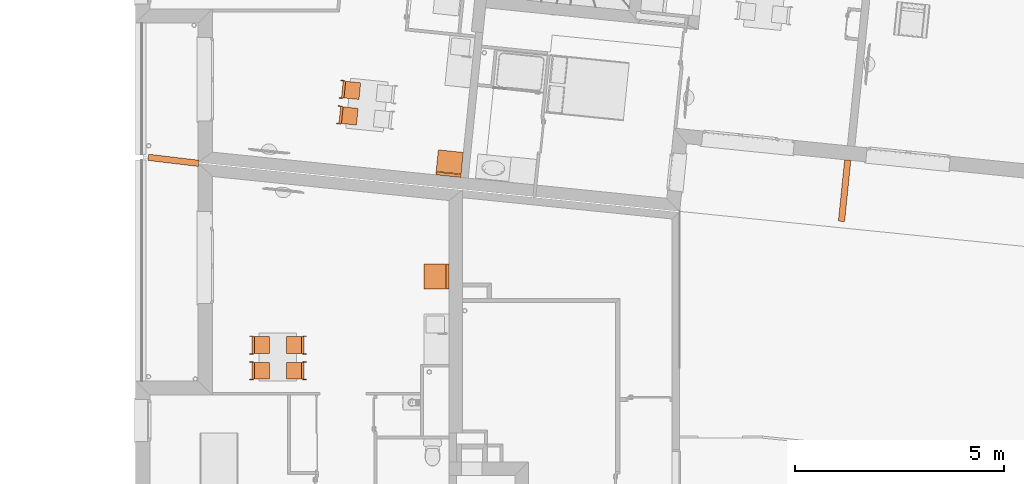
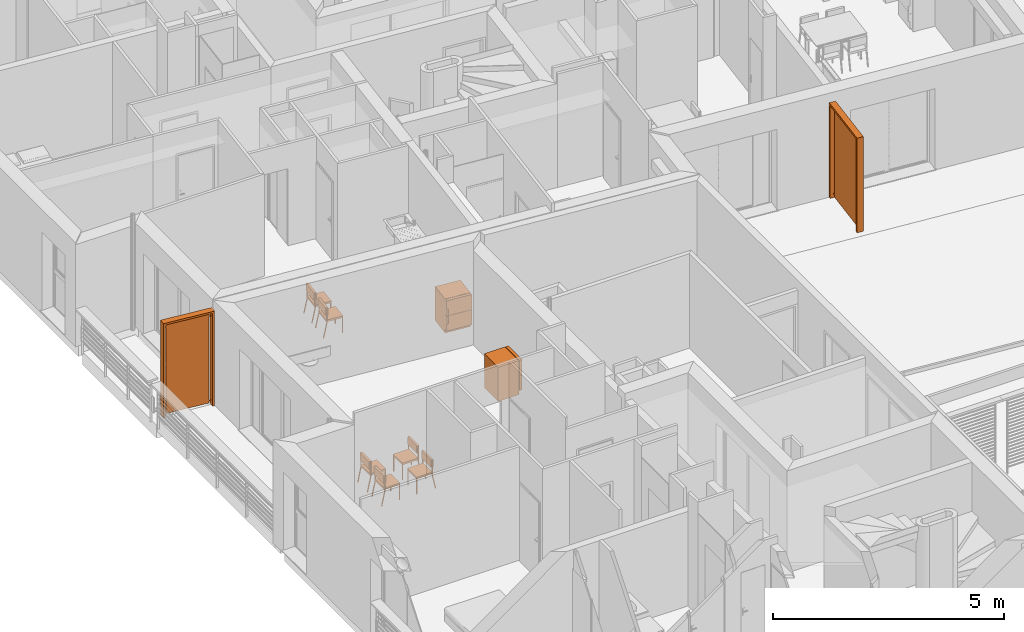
# One storey, part 158 of 171: 10 proxies.
"""IFC2X3 building model written with IfcOpenShell, lengths in millimetres."""

from ifc_helpers import new_model, entity, si_unit, converted_unit, derived_unit, money_unit, direction, frame, origin_with_axes, place, context, subcontext, project, spatial, open_shell, faceted_brep, surface_model, source, transform, mapped, type_object, element, save


model = new_model("IFC2X3")

# Units and contexts
model_context = context("Model", 3, precision=0.01, world=origin_with_axes(), true_north=direction((0.0, 1.0)))
body_context = subcontext(model_context, "Body", "Model", "MODEL_VIEW")
ifc_project = project(units=[si_unit("LENGTHUNIT", "METRE", prefix="MILLI"), si_unit("AREAUNIT", "SQUARE_METRE"), si_unit("VOLUMEUNIT", "CUBIC_METRE"), converted_unit("PLANEANGLEUNIT", "DEGREE", entity("IfcPlaneAngleMeasure", 0.0174532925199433), si_unit("PLANEANGLEUNIT", "RADIAN"), dimensions=[0, 0, 0, 0, 0, 0, 0]), money_unit("USD"), converted_unit("TIMEUNIT", "Year", entity("IfcTimeMeasure", 31557600.0), si_unit("TIMEUNIT", "SECOND"), dimensions=[0, 0, 1, 0, 0, 0, 0]), si_unit("MASSUNIT", "GRAM", prefix="KILO"), si_unit("THERMODYNAMICTEMPERATUREUNIT", "DEGREE_CELSIUS"), si_unit("LUMINOUSINTENSITYUNIT", "LUMEN"), si_unit("ENERGYUNIT", "JOULE", prefix="MEGA"), derived_unit("THERMALCONDUCTANCEUNIT", [(si_unit("POWERUNIT", "WATT"), 1), (si_unit("LENGTHUNIT", "METRE"), -1), (si_unit("THERMODYNAMICTEMPERATUREUNIT", "KELVIN"), -1)]), derived_unit("SPECIFICHEATCAPACITYUNIT", [(si_unit("ENERGYUNIT", "JOULE"), 1), (si_unit("MASSUNIT", "GRAM", prefix="KILO"), -1), (si_unit("THERMODYNAMICTEMPERATUREUNIT", "KELVIN"), -1)]), derived_unit("MASSDENSITYUNIT", [(si_unit("MASSUNIT", "GRAM", prefix="KILO"), 1), (si_unit("VOLUMEUNIT", "CUBIC_METRE"), -1)])], contexts=[model_context])

# Site, building, storey
site_placement = place(None, origin_with_axes())
site = spatial("IfcSite", under=ifc_project, at=site_placement, Name="Site", CompositionType="ELEMENT")
building_placement = place(site_placement, origin_with_axes())
building = spatial("IfcBuilding", under=site, at=building_placement, Name="Bâtiment", CompositionType="ELEMENT")
storey_placement = place(building_placement, frame((0.0, 0.0, 3000.0), z_axis=(0.0, 0.0, 1.0), x_axis=(1.0, 0.0, 0.0)))
storey = spatial("IfcBuildingStorey", under=building, at=storey_placement, Name="rdc", CompositionType="ELEMENT", Elevation=3000.0)

# Proxies
building_element_proxy_type = type_object("IfcBuildingElementProxyType", PredefinedType="NOTDEFINED")
shared_shape_1 = source(origin_with_axes(), body_context, "Body", "Brep", [
    faceted_brep([(39.99999978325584, 0.0, 0.0), (19.99999989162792, 0.0, 0.0), (19.99999989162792, 19.99999936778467, 0.0), (39.99999978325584, 19.99999936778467, 0.0), (39.99999978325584, 0.0, 400.0), (19.99999989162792, 0.0, 400.0), (19.99999989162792, 19.99999936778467, 400.0), (39.99999978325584, 19.99999936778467, 400.0)], [[[0, 1, 2, 3]], [[1, 0, 4, 5]], [[2, 1, 5, 6]], [[3, 2, 6, 7]], [[0, 3, 7, 4]], [[5, 4, 7, 6]]]),
    faceted_brep([(419.9999977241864, 0.0, 0.0), (399.9999978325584, 0.0, 0.0), (399.9999978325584, 19.99999936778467, 0.0), (419.9999977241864, 19.99999936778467, 0.0), (419.9999977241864, 0.0, 400.0), (399.9999978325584, 0.0, 400.0), (399.9999978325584, 19.99999936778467, 400.0), (419.9999977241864, 19.99999936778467, 400.0)], [[[0, 1, 2, 3]], [[1, 0, 4, 5]], [[2, 1, 5, 6]], [[3, 2, 6, 7]], [[0, 3, 7, 4]], [[5, 4, 7, 6]]]),
    faceted_brep([(399.9999978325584, 0.0, 400.0000000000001), (39.99999978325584, 0.0, 400.0000000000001), (39.99999978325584, 19.99999936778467, 400.0000000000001), (399.9999978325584, 19.99999936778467, 400.0000000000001), (399.9999978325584, 0.0, 420.0000000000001), (39.99999978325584, 0.0, 420.0000000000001), (39.99999978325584, 19.99999936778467, 420.0000000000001), (399.9999978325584, 19.99999936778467, 420.0000000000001)], [[[0, 1, 2, 3]], [[1, 0, 4, 5]], [[2, 1, 5, 6]], [[3, 2, 6, 7]], [[0, 3, 7, 4]], [[5, 4, 7, 6]]]),
    faceted_brep([(39.99999978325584, 19.99999936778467, 400.0000000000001), (19.99999989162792, 19.99999936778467, 400.0000000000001), (19.99999989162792, 379.9999879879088, 400.0000000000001), (39.99999978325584, 379.9999879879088, 400.0000000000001), (39.99999978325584, 19.99999936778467, 420.0000000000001), (19.99999989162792, 19.99999936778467, 420.0000000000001), (19.99999989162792, 379.9999879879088, 420.0000000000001), (39.99999978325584, 379.9999879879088, 420.0000000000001)], [[[0, 1, 2, 3]], [[1, 0, 4, 5]], [[2, 1, 5, 6]], [[3, 2, 6, 7]], [[0, 3, 7, 4]], [[5, 4, 7, 6]]]),
    faceted_brep([(419.9999977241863, 379.9999879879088, 400.0000000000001), (19.99999989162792, 379.9999879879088, 400.0000000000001), (19.99999989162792, 399.9999873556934, 400.0000000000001), (419.9999977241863, 399.9999873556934, 400.0000000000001), (419.9999977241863, 379.9999879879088, 420.0000000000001), (19.99999989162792, 379.9999879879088, 420.0000000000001), (19.99999989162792, 399.9999873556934, 420.0000000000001), (419.9999977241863, 399.9999873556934, 420.0000000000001)], [[[0, 1, 2, 3]], [[1, 0, 4, 5]], [[2, 1, 5, 6]], [[3, 2, 6, 7]], [[0, 3, 7, 4]], [[5, 4, 7, 6]]]),
    faceted_brep([(419.9999977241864, 19.99999936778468, 400.0000000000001), (399.9999978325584, 19.99999936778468, 400.0000000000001), (399.9999978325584, 379.9999879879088, 400.0000000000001), (419.9999977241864, 379.9999879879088, 400.0000000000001), (419.9999977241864, 19.99999936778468, 420.0000000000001), (399.9999978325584, 19.99999936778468, 420.0000000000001), (399.9999978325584, 379.9999879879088, 420.0000000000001), (419.9999977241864, 379.9999879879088, 420.0000000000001)], [[[0, 1, 2, 3]], [[1, 0, 4, 5]], [[2, 1, 5, 6]], [[3, 2, 6, 7]], [[0, 3, 7, 4]], [[5, 4, 7, 6]]]),
    faceted_brep([(419.9999977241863, 0.0, 400.0), (19.99999989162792, 0.0, 400.0), (19.99999989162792, 399.9999873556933, 400.0), (419.9999977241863, 399.9999873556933, 400.0), (419.9999977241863, 0.0, 450.0), (19.99999989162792, 0.0, 450.0), (19.99999989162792, 399.9999873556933, 450.0), (419.9999977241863, 399.9999873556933, 450.0)], [[[0, 1, 2, 3]], [[1, 0, 4, 5]], [[2, 1, 5, 6]], [[3, 2, 6, 7]], [[0, 3, 7, 4]], [[5, 4, 7, 6]]]),
    faceted_brep([(19.99999989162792, 379.9999879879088, 380.0), (0.0, 379.9999879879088, 380.0), (0.0, 399.9999873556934, 380.0), (19.99999989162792, 399.9999873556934, 380.0), (19.99999989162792, 379.9999879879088, 780.0), (0.0, 379.9999879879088, 780.0), (0.0, 399.9999873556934, 780.0), (19.99999989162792, 399.9999873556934, 780.0)], [[[0, 1, 2, 3]], [[1, 0, 4, 5]], [[2, 1, 5, 6]], [[3, 2, 6, 7]], [[0, 3, 7, 4]], [[5, 4, 7, 6]]]),
    faceted_brep([(439.9999976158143, 379.9999879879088, 380.0), (419.9999977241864, 379.9999879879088, 380.0), (419.9999977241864, 399.9999873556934, 380.0), (439.9999976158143, 399.9999873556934, 380.0), (439.9999976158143, 379.9999879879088, 780.0), (419.9999977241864, 379.9999879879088, 780.0), (419.9999977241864, 399.9999873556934, 780.0), (439.9999976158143, 399.9999873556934, 780.0)], [[[0, 1, 2, 3]], [[1, 0, 4, 5]], [[2, 1, 5, 6]], [[3, 2, 6, 7]], [[0, 3, 7, 4]], [[5, 4, 7, 6]]]),
    faceted_brep([(419.9999977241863, 359.999988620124, 580.0000000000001), (19.99999989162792, 359.999988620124, 580.0000000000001), (19.99999989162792, 419.9999867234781, 580.0000000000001), (419.9999977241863, 419.9999867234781, 580.0000000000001), (419.9999977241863, 359.999988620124, 780.0), (19.99999989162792, 359.999988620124, 780.0), (19.99999989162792, 419.9999867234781, 780.0), (419.9999977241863, 419.9999867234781, 780.0)], [[[0, 1, 2, 3]], [[1, 0, 4, 5]], [[2, 1, 5, 6]], [[3, 2, 6, 7]], [[0, 3, 7, 4]], [[5, 4, 7, 6]]]),
    faceted_brep([(19.99999989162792, 459.9999854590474, 0.0), (0.0, 459.9999854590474, 0.0), (0.0, 479.5709559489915, 4.120326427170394), (19.99999989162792, 479.5709559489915, 4.120326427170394), (19.99999989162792, 379.997669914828, 379.999760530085), (0.0, 379.997669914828, 379.999760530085), (0.0, 399.5686404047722, 384.1200869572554), (19.99999989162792, 399.5686404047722, 384.1200869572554)], [[[0, 1, 2, 3]], [[1, 0, 4, 5]], [[2, 1, 5, 6]], [[3, 2, 6, 7]], [[0, 3, 7, 4]], [[5, 4, 7, 6]]]),
    faceted_brep([(439.9999976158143, 459.9999854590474, 0.0), (419.9999977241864, 459.9999854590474, 0.0), (419.9999977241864, 479.5709559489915, 4.120326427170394), (439.9999976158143, 479.5709559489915, 4.120326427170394), (439.9999976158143, 379.997669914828, 379.999760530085), (419.9999977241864, 379.997669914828, 379.999760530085), (419.9999977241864, 399.5686404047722, 384.1200869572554), (439.9999976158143, 399.5686404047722, 384.1200869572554)], [[[0, 1, 2, 3]], [[1, 0, 4, 5]], [[2, 1, 5, 6]], [[3, 2, 6, 7]], [[0, 3, 7, 4]], [[5, 4, 7, 6]]]),
])
for number, where, z_axis, x_axis, name in (
    (1, (2219836.985597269, -625431.2613920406, 0.0), (0.0, 0.0, 1.0), (-0.0005412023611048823, 0.9999998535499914, 0.0), "Obj.-027"),
    (2, (2221916.91259288, -619966.2844039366, 0.0), (0.0, 0.0, 1.0), (0.1000048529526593, 0.9949869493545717, 0.0), "Obj.-027"),
    (3, (2221978.428118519, -619354.2426538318, 0.0), (0.0, 0.0, 1.0), (0.1000048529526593, 0.9949869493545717, 0.0), "Obj.-027"),
    (4, (2219837.318504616, -626046.3867068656, 0.0), (0.0, 0.0, 1.0), (-0.0005412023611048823, 0.9999998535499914, 0.0), "Obj.-027"),
):
    element("IfcBuildingElementProxy", number, at=place(storey_placement, frame(where, z_axis=z_axis, x_axis=x_axis)), inside=storey, type_object=building_element_proxy_type, Name=name, context=body_context, shape_type="MappedRepresentation", body=[
        mapped(shared_shape_1, transform((0.0, 0.0, 0.0))),
    ])
shared_shape_2 = source(origin_with_axes(), body_context, "Body", "Brep", [
    faceted_brep([(-39.99999978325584, 0.0, 0.0), (-39.99999978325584, 19.99999936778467, 0.0), (-19.99999989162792, 19.99999936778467, 0.0), (-19.99999989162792, 0.0, 0.0), (-39.99999978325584, 0.0, 400.0), (-39.99999978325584, 19.99999936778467, 400.0), (-19.99999989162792, 19.99999936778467, 400.0), (-19.99999989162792, 0.0, 400.0)], [[[0, 1, 2, 3]], [[0, 4, 5, 1]], [[1, 5, 6, 2]], [[2, 6, 7, 3]], [[3, 7, 4, 0]], [[7, 6, 5, 4]]]),
    faceted_brep([(-419.9999977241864, 0.0, 0.0), (-419.9999977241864, 19.99999936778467, 0.0), (-399.9999978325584, 19.99999936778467, 0.0), (-399.9999978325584, 0.0, 0.0), (-419.9999977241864, 0.0, 400.0), (-419.9999977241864, 19.99999936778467, 400.0), (-399.9999978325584, 19.99999936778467, 400.0), (-399.9999978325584, 0.0, 400.0)], [[[0, 1, 2, 3]], [[0, 4, 5, 1]], [[1, 5, 6, 2]], [[2, 6, 7, 3]], [[3, 7, 4, 0]], [[7, 6, 5, 4]]]),
    faceted_brep([(-399.9999978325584, 0.0, 400.0000000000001), (-399.9999978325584, 19.99999936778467, 400.0000000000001), (-39.99999978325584, 19.99999936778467, 400.0000000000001), (-39.99999978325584, 0.0, 400.0000000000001), (-399.9999978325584, 0.0, 420.0000000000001), (-399.9999978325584, 19.99999936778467, 420.0000000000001), (-39.99999978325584, 19.99999936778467, 420.0000000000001), (-39.99999978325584, 0.0, 420.0000000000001)], [[[0, 1, 2, 3]], [[0, 4, 5, 1]], [[1, 5, 6, 2]], [[2, 6, 7, 3]], [[3, 7, 4, 0]], [[7, 6, 5, 4]]]),
    faceted_brep([(-39.99999978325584, 19.99999936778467, 400.0000000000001), (-39.99999978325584, 379.9999879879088, 400.0000000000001), (-19.99999989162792, 379.9999879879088, 400.0000000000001), (-19.99999989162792, 19.99999936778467, 400.0000000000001), (-39.99999978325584, 19.99999936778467, 420.0000000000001), (-39.99999978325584, 379.9999879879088, 420.0000000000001), (-19.99999989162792, 379.9999879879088, 420.0000000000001), (-19.99999989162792, 19.99999936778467, 420.0000000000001)], [[[0, 1, 2, 3]], [[0, 4, 5, 1]], [[1, 5, 6, 2]], [[2, 6, 7, 3]], [[3, 7, 4, 0]], [[7, 6, 5, 4]]]),
    faceted_brep([(-419.9999977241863, 379.9999879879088, 400.0000000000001), (-419.9999977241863, 399.9999873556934, 400.0000000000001), (-19.99999989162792, 399.9999873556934, 400.0000000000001), (-19.99999989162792, 379.9999879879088, 400.0000000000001), (-419.9999977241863, 379.9999879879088, 420.0000000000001), (-419.9999977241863, 399.9999873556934, 420.0000000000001), (-19.99999989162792, 399.9999873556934, 420.0000000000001), (-19.99999989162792, 379.9999879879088, 420.0000000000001)], [[[0, 1, 2, 3]], [[0, 4, 5, 1]], [[1, 5, 6, 2]], [[2, 6, 7, 3]], [[3, 7, 4, 0]], [[7, 6, 5, 4]]]),
    faceted_brep([(-419.9999977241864, 19.99999936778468, 400.0000000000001), (-419.9999977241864, 379.9999879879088, 400.0000000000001), (-399.9999978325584, 379.9999879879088, 400.0000000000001), (-399.9999978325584, 19.99999936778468, 400.0000000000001), (-419.9999977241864, 19.99999936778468, 420.0000000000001), (-419.9999977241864, 379.9999879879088, 420.0000000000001), (-399.9999978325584, 379.9999879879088, 420.0000000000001), (-399.9999978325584, 19.99999936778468, 420.0000000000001)], [[[0, 1, 2, 3]], [[0, 4, 5, 1]], [[1, 5, 6, 2]], [[2, 6, 7, 3]], [[3, 7, 4, 0]], [[7, 6, 5, 4]]]),
    faceted_brep([(-419.9999977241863, 0.0, 400.0), (-419.9999977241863, 399.9999873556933, 400.0), (-19.99999989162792, 399.9999873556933, 400.0), (-19.99999989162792, 0.0, 400.0), (-419.9999977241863, 0.0, 450.0), (-419.9999977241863, 399.9999873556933, 450.0), (-19.99999989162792, 399.9999873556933, 450.0), (-19.99999989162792, 0.0, 450.0)], [[[0, 1, 2, 3]], [[0, 4, 5, 1]], [[1, 5, 6, 2]], [[2, 6, 7, 3]], [[3, 7, 4, 0]], [[7, 6, 5, 4]]]),
    faceted_brep([(-19.99999989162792, 379.9999879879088, 380.0), (-19.99999989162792, 399.9999873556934, 380.0), (0.0, 399.9999873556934, 380.0), (0.0, 379.9999879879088, 380.0), (-19.99999989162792, 379.9999879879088, 780.0), (-19.99999989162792, 399.9999873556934, 780.0), (0.0, 399.9999873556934, 780.0), (0.0, 379.9999879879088, 780.0)], [[[0, 1, 2, 3]], [[0, 4, 5, 1]], [[1, 5, 6, 2]], [[2, 6, 7, 3]], [[3, 7, 4, 0]], [[7, 6, 5, 4]]]),
    faceted_brep([(-439.9999976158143, 379.9999879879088, 380.0), (-439.9999976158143, 399.9999873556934, 380.0), (-419.9999977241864, 399.9999873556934, 380.0), (-419.9999977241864, 379.9999879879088, 380.0), (-439.9999976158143, 379.9999879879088, 780.0), (-439.9999976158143, 399.9999873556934, 780.0), (-419.9999977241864, 399.9999873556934, 780.0), (-419.9999977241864, 379.9999879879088, 780.0)], [[[0, 1, 2, 3]], [[0, 4, 5, 1]], [[1, 5, 6, 2]], [[2, 6, 7, 3]], [[3, 7, 4, 0]], [[7, 6, 5, 4]]]),
    faceted_brep([(-419.9999977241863, 359.999988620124, 580.0000000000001), (-419.9999977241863, 419.9999867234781, 580.0000000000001), (-19.99999989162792, 419.9999867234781, 580.0000000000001), (-19.99999989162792, 359.999988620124, 580.0000000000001), (-419.9999977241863, 359.999988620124, 780.0), (-419.9999977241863, 419.9999867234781, 780.0), (-19.99999989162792, 419.9999867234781, 780.0), (-19.99999989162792, 359.999988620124, 780.0)], [[[0, 1, 2, 3]], [[0, 4, 5, 1]], [[1, 5, 6, 2]], [[2, 6, 7, 3]], [[3, 7, 4, 0]], [[7, 6, 5, 4]]]),
    faceted_brep([(-19.99999989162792, 459.9999854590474, 0.0), (-19.99999989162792, 479.5709559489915, 4.120326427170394), (0.0, 479.5709559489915, 4.120326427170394), (0.0, 459.9999854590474, 0.0), (-19.99999989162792, 379.997669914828, 379.999760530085), (-19.99999989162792, 399.5686404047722, 384.1200869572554), (0.0, 399.5686404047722, 384.1200869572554), (0.0, 379.997669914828, 379.999760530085)], [[[0, 1, 2, 3]], [[0, 4, 5, 1]], [[1, 5, 6, 2]], [[2, 6, 7, 3]], [[3, 7, 4, 0]], [[7, 6, 5, 4]]]),
    faceted_brep([(-439.9999976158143, 459.9999854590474, 0.0), (-439.9999976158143, 479.5709559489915, 4.120326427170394), (-419.9999977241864, 479.5709559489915, 4.120326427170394), (-419.9999977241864, 459.9999854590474, 0.0), (-439.9999976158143, 379.997669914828, 379.999760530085), (-439.9999976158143, 399.5686404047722, 384.1200869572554), (-419.9999977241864, 399.5686404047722, 384.1200869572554), (-419.9999977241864, 379.997669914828, 379.999760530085)], [[[0, 1, 2, 3]], [[0, 4, 5, 1]], [[1, 5, 6, 2]], [[2, 6, 7, 3]], [[3, 7, 4, 0]], [[7, 6, 5, 4]]]),
])
for number, where, z_axis, x_axis, name in (
    (5, (2220245.375828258, -626046.1658652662, 0.0), (0.0, 0.0, 1.0), (0.0005412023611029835, -0.9999998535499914, 0.0), "Obj.-027"),
    (6, (2220245.042920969, -625431.0405504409, 0.0), (0.0, 0.0, 1.0), (0.0005412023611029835, -0.9999998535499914, 0.0), "Obj.-027"),
):
    element("IfcBuildingElementProxy", number, at=place(storey_placement, frame(where, z_axis=z_axis, x_axis=x_axis)), inside=storey, type_object=building_element_proxy_type, Name=name, context=body_context, shape_type="MappedRepresentation", body=[
        mapped(shared_shape_2, transform((0.0, 0.0, 0.0))),
    ])
shared_shape_3 = source(origin_with_axes(), body_context, "Body", "SurfaceModel", [
    faceted_brep([(1473.383622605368, 0.0, 2449.999999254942), (0.0, 0.0, 2449.999999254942), (0.0, 149.7310623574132, 2449.999999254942), (1473.383622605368, 149.7310623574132, 2449.999999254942), (1473.383622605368, 0.0, 2500.0), (0.0, 0.0, 2500.0), (0.0, 149.7310623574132, 2500.0), (1473.383622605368, 149.7310623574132, 2500.0)], [[[0, 1, 2, 3]], [[1, 0, 4, 5]], [[2, 1, 5, 6]], [[3, 2, 6, 7]], [[0, 3, 7, 4]], [[5, 4, 7, 6]]]),
    faceted_brep([(50.00000074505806, 0.0, 0.0), (0.0, 0.0, 0.0), (0.0, 149.7310623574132, 0.0), (50.00000074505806, 149.7310623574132, 0.0), (50.00000074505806, 0.0, 2449.999999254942), (0.0, 0.0, 2449.999999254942), (0.0, 149.7310623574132, 2449.999999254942), (50.00000074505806, 149.7310623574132, 2449.999999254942)], [[[0, 1, 2, 3]], [[1, 0, 4, 5]], [[2, 1, 5, 6]], [[3, 2, 6, 7]], [[0, 3, 7, 4]], [[5, 4, 7, 6]]]),
    faceted_brep([(1473.383622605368, 0.0, 0.0), (1423.38362186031, 0.0, 0.0), (1423.38362186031, 149.7310623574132, 0.0), (1473.383622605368, 149.7310623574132, 0.0), (1473.383622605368, 0.0, 2449.999999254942), (1423.38362186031, 0.0, 2449.999999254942), (1423.38362186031, 149.7310623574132, 2449.999999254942), (1473.383622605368, 149.7310623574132, 2449.999999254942)], [[[0, 1, 2, 3]], [[1, 0, 4, 5]], [[2, 1, 5, 6]], [[3, 2, 6, 7]], [[0, 3, 7, 4]], [[5, 4, 7, 6]]]),
    surface_model("IfcShellBasedSurfaceModel", [(100.0000007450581, 74.8655311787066, 50.0), (1373.38362186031, 74.8655311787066, 50.0), (1373.38362186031, 74.86553117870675, 2399.999999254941), (100.0000007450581, 74.86553117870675, 2399.999999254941)], [open_shell([[[0, 1, 2, 3]]])]),
    surface_model("IfcShellBasedSurfaceModel", [(50.00000074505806, 74.8655311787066, 100.0), (120.0000007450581, 74.8655311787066, 100.0), (120.0000007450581, 74.8655311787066, 130.0), (50.00000074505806, 74.8655311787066, 130.0)], [open_shell([[[0, 1, 2, 3]]])]),
    surface_model("IfcShellBasedSurfaceModel", [(50.00000074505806, 74.86553117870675, 2329.999999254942), (120.0000007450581, 74.86553117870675, 2329.999999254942), (120.0000007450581, 74.86553117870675, 2359.999999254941), (50.00000074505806, 74.86553117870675, 2359.999999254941)], [open_shell([[[0, 1, 2, 3]]])]),
    surface_model("IfcShellBasedSurfaceModel", [(1353.38362186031, 74.86553117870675, 2329.999999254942), (1423.38362186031, 74.86553117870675, 2329.999999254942), (1423.38362186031, 74.86553117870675, 2359.999999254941), (1353.38362186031, 74.86553117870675, 2359.999999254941)], [open_shell([[[0, 1, 2, 3]]])]),
    surface_model("IfcShellBasedSurfaceModel", [(1353.38362186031, 74.8655311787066, 99.99999999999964), (1423.38362186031, 74.8655311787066, 99.99999999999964), (1423.38362186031, 74.8655311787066, 129.9999999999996), (1353.38362186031, 74.8655311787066, 129.9999999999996)], [open_shell([[[0, 1, 2, 3]]])]),
])
proxy_1_placement = place(storey_placement, frame((2233600.57975248, -622257.7460872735, 0.0), z_axis=(0.0, 0.0, 1.0), x_axis=(0.1011032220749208, 0.9948759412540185, 0.0)))
element("IfcBuildingElementProxy", 7, at=proxy_1_placement, inside=storey, type_object=building_element_proxy_type, Name="Obj.-034", context=body_context, shape_type="MappedRepresentation", body=[
    mapped(shared_shape_3, transform((0.0, 0.0, 0.0))),
])
shared_shape_4 = source(origin_with_axes(), body_context, "Body", "SurfaceModel", [
    faceted_brep([(0.0, 80.0, 100.0), (0.0, 80.0, 900.0), (-600.0, 80.0, 900.0), (-600.0, 80.0, 100.0), (0.0, 600.0, 100.0), (0.0, 600.0, 900.0), (-600.0, 600.0, 900.0), (-600.0, 600.0, 100.0)], [[[0, 1, 2, 3]], [[4, 5, 1, 0]], [[1, 5, 6, 2]], [[3, 2, 6, 7]], [[0, 3, 7, 4]], [[7, 6, 5, 4]]]),
    faceted_brep([(0.0, 80.0, 0.0), (0.0, 80.0, 100.0), (-600.0, 80.0, 100.0), (-600.0, 80.0, 0.0), (0.0, 600.0, 0.0), (0.0, 600.0, 100.0), (-600.0, 600.0, 100.0), (-600.0, 600.0, 0.0)], [[[0, 1, 2, 3]], [[4, 5, 1, 0]], [[1, 5, 6, 2]], [[3, 2, 6, 7]], [[0, 3, 7, 4]], [[7, 6, 5, 4]]]),
    faceted_brep([(0.0, 70.0, 100.0), (0.0, 0.0, 100.0), (-600.0, 0.0, 100.0), (-600.0, 70.0, 100.0), (0.0, 70.00000000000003, 494.0), (0.0, 0.0, 494.0), (-600.0, 0.0, 494.0), (-600.0, 70.00000000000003, 494.0)], [[[0, 1, 2, 3]], [[4, 5, 1, 0]], [[1, 5, 6, 2]], [[3, 2, 6, 7]], [[0, 3, 7, 4]], [[7, 6, 5, 4]]]),
    faceted_brep([(0.0, 70.0, 500.0), (0.0, 0.0, 500.0), (-600.0, 0.0, 500.0), (-600.0, 70.0, 500.0), (0.0, 70.00000000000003, 900.0), (0.0, 0.0, 900.0), (-600.0, 0.0, 900.0), (-600.0, 70.00000000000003, 900.0)], [[[0, 1, 2, 3]], [[4, 5, 1, 0]], [[1, 5, 6, 2]], [[3, 2, 6, 7]], [[0, 3, 7, 4]], [[7, 6, 5, 4]]]),
    surface_model("IfcShellBasedSurfaceModel", [(-600.0, -30.0, 300.0000000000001), (-600.0, 0.0, 300.0000000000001), (-600.0, 0.0, 494.0000000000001), (-600.0, -30.0, 494.0000000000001)], [open_shell([[[0, 1, 2, 3]]])]),
    surface_model("IfcShellBasedSurfaceModel", [(-600.0, -30.0, 300.0000000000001), (-570.0, -30.0, 300.0000000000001), (-570.0, -30.0, 494.0000000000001), (-600.0, -30.0, 494.0000000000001)], [open_shell([[[0, 1, 2, 3]]])]),
    surface_model("IfcShellBasedSurfaceModel", [(-600.0, -30.0, 500.0), (-600.0, 0.0, 500.0), (-600.0, 0.0, 700.0), (-600.0, -30.0, 700.0)], [open_shell([[[0, 1, 2, 3]]])]),
    surface_model("IfcShellBasedSurfaceModel", [(-600.0, -30.0, 500.0), (-570.0, -30.0, 500.0), (-570.0, -30.0, 700.0), (-600.0, -30.0, 700.0)], [open_shell([[[0, 1, 2, 3]]])]),
])
proxy_2_placement = place(storey_placement, frame((2224415.275838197, -621198.6581514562, 0.0), z_axis=(0.0, 0.0, 1.0), x_axis=(0.9948188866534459, -0.1016630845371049, 0.0)))
element("IfcBuildingElementProxy", 8, at=proxy_2_placement, inside=storey, type_object=building_element_proxy_type, Name="Obj.-019", context=body_context, shape_type="MappedRepresentation", body=[
    mapped(shared_shape_4, transform((0.0, 0.0, 0.0))),
])
shared_shape_5 = source(origin_with_axes(), body_context, "Body", "SurfaceModel", [
    faceted_brep([(0.0, 80.0, 100.0), (600.0, 80.0, 100.0), (600.0, 80.0, 900.0), (0.0, 80.0, 900.0), (0.0, 600.0, 100.0), (600.0, 600.0, 100.0), (600.0, 600.0, 900.0), (0.0, 600.0, 900.0)], [[[0, 1, 2, 3]], [[0, 4, 5, 1]], [[1, 5, 6, 2]], [[3, 2, 6, 7]], [[4, 0, 3, 7]], [[5, 4, 7, 6]]]),
    faceted_brep([(0.0, 80.0, 0.0), (600.0, 80.0, 0.0), (600.0, 80.0, 100.0), (0.0, 80.0, 100.0), (0.0, 600.0, 0.0), (600.0, 600.0, 0.0), (600.0, 600.0, 100.0), (0.0, 600.0, 100.0)], [[[0, 1, 2, 3]], [[0, 4, 5, 1]], [[1, 5, 6, 2]], [[3, 2, 6, 7]], [[4, 0, 3, 7]], [[5, 4, 7, 6]]]),
    faceted_brep([(0.0, 70.0, 100.0), (600.0, 70.0, 100.0), (600.0, 0.0, 100.0), (0.0, 0.0, 100.0), (0.0, 70.00000000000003, 494.0), (600.0, 70.00000000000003, 494.0), (600.0, 0.0, 494.0), (0.0, 0.0, 494.0)], [[[0, 1, 2, 3]], [[0, 4, 5, 1]], [[1, 5, 6, 2]], [[3, 2, 6, 7]], [[4, 0, 3, 7]], [[5, 4, 7, 6]]]),
    faceted_brep([(0.0, 70.0, 500.0), (600.0, 70.0, 500.0), (600.0, 0.0, 500.0), (0.0, 0.0, 500.0), (0.0, 70.00000000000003, 900.0), (600.0, 70.00000000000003, 900.0), (600.0, 0.0, 900.0), (0.0, 0.0, 900.0)], [[[0, 1, 2, 3]], [[0, 4, 5, 1]], [[1, 5, 6, 2]], [[3, 2, 6, 7]], [[4, 0, 3, 7]], [[5, 4, 7, 6]]]),
    surface_model("IfcShellBasedSurfaceModel", [(600.0, -30.0, 300.0000000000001), (600.0, -30.0, 494.0000000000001), (600.0, 0.0, 494.0000000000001), (600.0, 0.0, 300.0000000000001)], [open_shell([[[0, 1, 2, 3]]])]),
    surface_model("IfcShellBasedSurfaceModel", [(600.0, -30.0, 300.0000000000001), (600.0, -30.0, 494.0000000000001), (570.0, -30.0, 494.0000000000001), (570.0, -30.0, 300.0000000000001)], [open_shell([[[0, 1, 2, 3]]])]),
    surface_model("IfcShellBasedSurfaceModel", [(600.0, -30.0, 500.0), (600.0, -30.0, 700.0), (600.0, 0.0, 700.0), (600.0, 0.0, 500.0)], [open_shell([[[0, 1, 2, 3]]])]),
    surface_model("IfcShellBasedSurfaceModel", [(600.0, -30.0, 500.0), (600.0, -30.0, 700.0), (570.0, -30.0, 700.0), (570.0, -30.0, 500.0)], [open_shell([[[0, 1, 2, 3]]])]),
])
proxy_3_placement = place(storey_placement, frame((2224132.341603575, -623871.2209312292, 0.0), z_axis=(0.0, 0.0, 1.0), x_axis=(0.0, 1.0, 0.0)))
element("IfcBuildingElementProxy", 9, at=proxy_3_placement, inside=storey, type_object=building_element_proxy_type, Name="Obj.-019", context=body_context, shape_type="MappedRepresentation", body=[
    mapped(shared_shape_5, transform((0.0, 0.0, 0.0))),
])
shared_shape_6 = source(origin_with_axes(), body_context, "Body", "SurfaceModel", [
    faceted_brep([(1210.868362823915, 0.0, 2449.999999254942), (0.0, 0.0, 2449.999999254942), (0.0, 150.000000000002, 2449.999999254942), (1210.868362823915, 150.000000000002, 2449.999999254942), (1210.868362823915, 0.0, 2500.0), (0.0, 0.0, 2500.0), (0.0, 150.000000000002, 2500.0), (1210.868362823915, 150.000000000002, 2500.0)], [[[0, 1, 2, 3]], [[1, 0, 4, 5]], [[2, 1, 5, 6]], [[3, 2, 6, 7]], [[0, 3, 7, 4]], [[5, 4, 7, 6]]]),
    faceted_brep([(50.00000074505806, 0.0, 0.0), (0.0, 0.0, 0.0), (0.0, 150.000000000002, 0.0), (50.00000074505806, 150.000000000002, 0.0), (50.00000074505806, 0.0, 2449.999999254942), (0.0, 0.0, 2449.999999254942), (0.0, 150.000000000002, 2449.999999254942), (50.00000074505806, 150.000000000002, 2449.999999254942)], [[[0, 1, 2, 3]], [[1, 0, 4, 5]], [[2, 1, 5, 6]], [[3, 2, 6, 7]], [[0, 3, 7, 4]], [[5, 4, 7, 6]]]),
    faceted_brep([(1210.868362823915, 0.0, 0.0), (1160.868362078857, 0.0, 0.0), (1160.868362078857, 150.000000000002, 0.0), (1210.868362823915, 150.000000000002, 0.0), (1210.868362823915, 0.0, 2449.999999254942), (1160.868362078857, 0.0, 2449.999999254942), (1160.868362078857, 150.000000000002, 2449.999999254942), (1210.868362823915, 150.000000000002, 2449.999999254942)], [[[0, 1, 2, 3]], [[1, 0, 4, 5]], [[2, 1, 5, 6]], [[3, 2, 6, 7]], [[0, 3, 7, 4]], [[5, 4, 7, 6]]]),
    surface_model("IfcShellBasedSurfaceModel", [(100.0000007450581, 75.00000000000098, 50.0), (1110.868362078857, 75.00000000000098, 50.0), (1110.868362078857, 75.00000000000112, 2399.999999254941), (100.0000007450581, 75.00000000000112, 2399.999999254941)], [open_shell([[[0, 1, 2, 3]]])]),
    surface_model("IfcShellBasedSurfaceModel", [(50.00000074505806, 75.00000000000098, 100.0), (120.0000007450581, 75.00000000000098, 100.0), (120.0000007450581, 75.00000000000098, 130.0), (50.00000074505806, 75.00000000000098, 130.0)], [open_shell([[[0, 1, 2, 3]]])]),
    surface_model("IfcShellBasedSurfaceModel", [(50.00000074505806, 75.00000000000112, 2329.999999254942), (120.0000007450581, 75.00000000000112, 2329.999999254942), (120.0000007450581, 75.00000000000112, 2359.999999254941), (50.00000074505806, 75.00000000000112, 2359.999999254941)], [open_shell([[[0, 1, 2, 3]]])]),
    surface_model("IfcShellBasedSurfaceModel", [(1090.868362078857, 75.00000000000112, 2329.999999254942), (1160.868362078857, 75.00000000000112, 2329.999999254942), (1160.868362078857, 75.00000000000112, 2359.999999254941), (1090.868362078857, 75.00000000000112, 2359.999999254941)], [open_shell([[[0, 1, 2, 3]]])]),
    surface_model("IfcShellBasedSurfaceModel", [(1090.868362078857, 75.00000000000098, 99.99999999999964), (1160.868362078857, 75.00000000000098, 99.99999999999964), (1160.868362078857, 75.00000000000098, 129.9999999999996), (1090.868362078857, 75.00000000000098, 129.9999999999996)], [open_shell([[[0, 1, 2, 3]]])]),
])
proxy_4_placement = place(storey_placement, frame((2216931.811156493, -620794.1293398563, 0.0), z_axis=(0.0, 0.0, 1.0), x_axis=(0.9930246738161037, -0.1179067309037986, 0.0)))
element("IfcBuildingElementProxy", 10, at=proxy_4_placement, inside=storey, type_object=building_element_proxy_type, Name="Obj.-034", context=body_context, shape_type="MappedRepresentation", body=[
    mapped(shared_shape_6, transform((0.0, 0.0, 0.0))),
])

save(model, "model.ifc")
